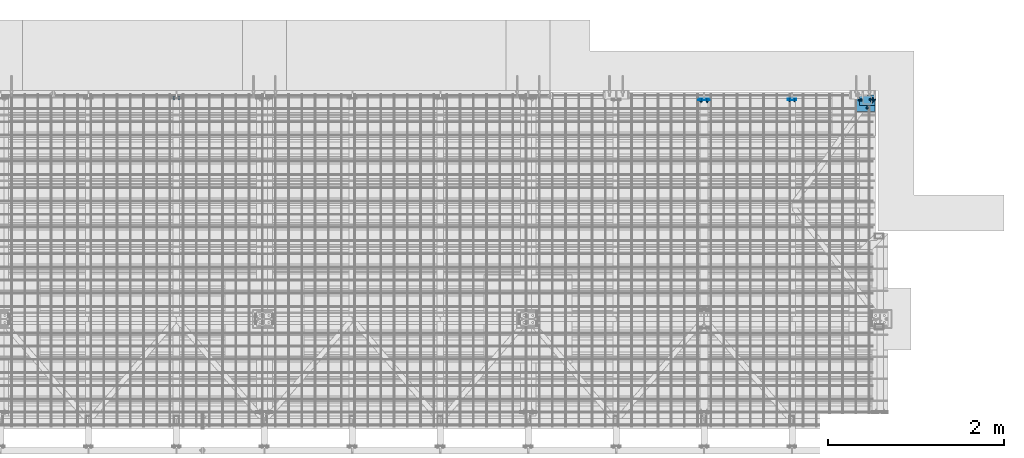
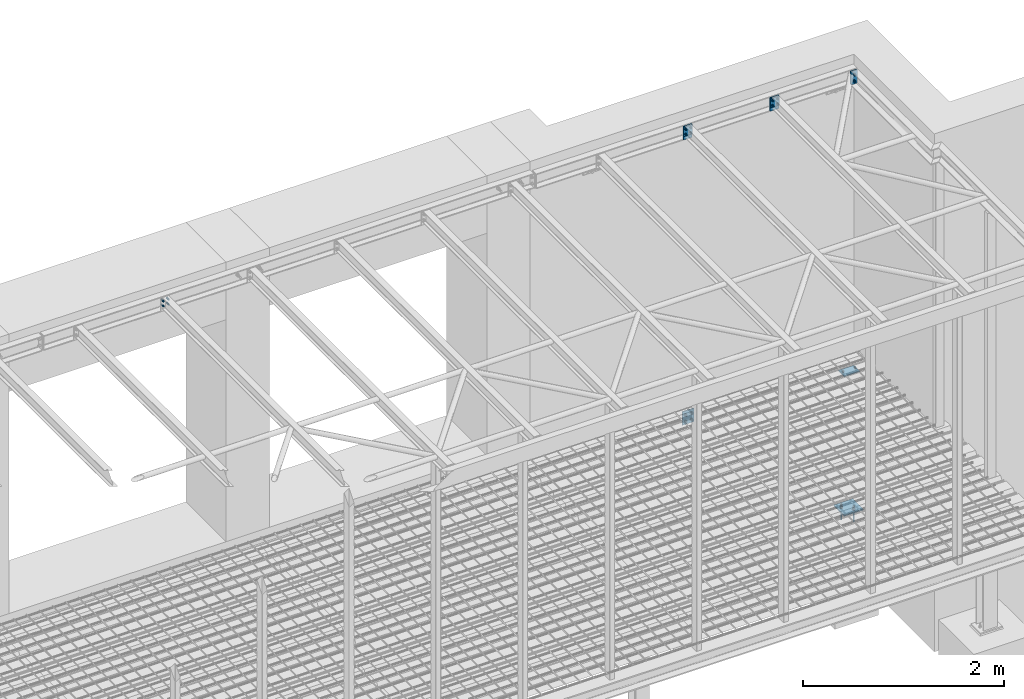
# One storey, part 23 of 26: 9 discrete accessories, 8 mechanical fasteners, 8 elements without a shape of their own.
"""IFC2X3 building model written with IfcOpenShell, lengths in millimetres."""

from ifc_helpers import new_model, si_unit, frame, origin_with_axes, origin_2d_with_axis, place, context, subcontext, project, spatial, polyline, circle, outline, extrude, source, transform, mapped, material, type_object, element, aggregate, save


model = new_model("IFC2X3")

# Units and contexts
model_context = context("Model", 3, precision=1e-05, world=origin_with_axes())
body_context = subcontext(model_context, "Body", "Model", "MODEL_VIEW")
ifc_project = project(units=[si_unit("LENGTHUNIT", "METRE", prefix="MILLI"), si_unit("AREAUNIT", "SQUARE_METRE"), si_unit("VOLUMEUNIT", "CUBIC_METRE"), si_unit("MASSUNIT", "GRAM", prefix="KILO"), si_unit("TIMEUNIT", "SECOND"), si_unit("PLANEANGLEUNIT", "RADIAN"), si_unit("SOLIDANGLEUNIT", "STERADIAN"), si_unit("THERMODYNAMICTEMPERATUREUNIT", "DEGREE_CELSIUS"), si_unit("LUMINOUSINTENSITYUNIT", "LUMEN")], contexts=[model_context])

# Site, building, storey
site_placement = place(None, origin_with_axes())
site = spatial("IfcSite", under=ifc_project, at=site_placement, Name="Undefined", CompositionType="ELEMENT")
building_placement = place(site_placement, origin_with_axes())
building = spatial("IfcBuilding", under=site, at=building_placement, Name="Undefined", CompositionType="ELEMENT")
storey_placement = place(building_placement, origin_with_axes())
storey = spatial("IfcBuildingStorey", under=building, at=storey_placement, Name="Undefined", CompositionType="ELEMENT", Elevation=0.0)

# Assembly, mechanical fasteners
assembly_1_placement = place(storey_placement, origin_with_axes())
assembly_1 = element("IfcElementAssembly", 1, at=assembly_1_placement, inside=storey, Name="Steel Assembly", AssemblyPlace="NOTDEFINED", PredefinedType="RIGID_FRAME")
ifc_material_1 = material(Name="Undefined")
discrete_accessory_type_1 = type_object("IfcDiscreteAccessoryType", Name="Bolt assembly")
shared_shape_1 = source(origin_with_axes(), body_context, "Body", "SweptSolid", [
    extrude(circle(Radius=9.0, at=origin_2d_with_axis()), frame((0.0, -15.0, 0.0), z_axis=(0.0, 1.0, 0.0), x_axis=(1.0, 0.0, 0.0)), (0.0, 0.0, 1.0), 15.1),
    extrude(outline(polyline([(7.73649338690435, 0.0), (3.86824669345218, 6.69999980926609), (-3.86824669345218, 6.69999980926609), (-7.73649338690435, 0.0), (-3.86824669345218, -6.69999980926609), (3.86824669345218, -6.69999980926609), (7.73649338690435, 0.0)])), frame((0.0, -147.0, 0.0), z_axis=(0.0, 1.0, 0.0), x_axis=(1.0, 0.0, 0.0)), (0.0, 0.0, 1.0), 132.0),
    extrude(circle(Radius=8.0, at=origin_2d_with_axis()), frame((0.0, -15.0, 0.0), z_axis=(0.0, 1.0, 0.0), x_axis=(1.0, 0.0, 0.0)), (0.0, 0.0, 1.0), 58.0),
    extrude(circle(Radius=15.0, at=origin_2d_with_axis()), frame((0.0, 0.0, 0.0), z_axis=(0.0, 1.0, 0.0), x_axis=(1.0, 0.0, 0.0)), (0.0, 0.0, 1.0), 3.0),
    extrude(outline(polyline([(15.4441197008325, 0.0), (7.72205985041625, 13.3750000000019), (-7.72205985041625, 13.3750000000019), (-15.4441197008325, 0.0), (-7.72205985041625, -13.3750000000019), (7.72205985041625, -13.3750000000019), (15.4441197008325, 0.0)])), frame((0.0, 3.0, 0.0), z_axis=(0.0, 1.0, 0.0), x_axis=(1.0, 0.0, 0.0)), (0.0, 0.0, 1.0), 13.0),
])
mechanical_fastener_1_placement = place(assembly_1_placement, frame((15905.0, 3660.0, -1975.0), z_axis=(0.0, -1.0, 0.0), x_axis=(1.0, 0.0, 0.0)))
mechanical_fastener_1 = element("IfcMechanicalFastener", 2, at=mechanical_fastener_1_placement, type_object=discrete_accessory_type_1, material=ifc_material_1, Name="Bolt assembly", NominalDiameter=16.0, NominalLength=58.0, context=body_context, shape_type="MappedRepresentation", body=[
    mapped(shared_shape_1, transform((0.0, 0.0, 0.0))),
])
mechanical_fastener_2_placement = place(assembly_1_placement, frame((15815.0, 3750.0, -1975.0), z_axis=(0.0, -1.0, 0.0), x_axis=(1.0, 0.0, 0.0)))
mechanical_fastener_2 = element("IfcMechanicalFastener", 3, at=mechanical_fastener_2_placement, type_object=discrete_accessory_type_1, material=ifc_material_1, Name="Bolt assembly", NominalDiameter=16.0, NominalLength=58.0, context=body_context, shape_type="MappedRepresentation", body=[
    mapped(shared_shape_1, transform((0.0, 0.0, 0.0))),
])

# Assembly, mechanical fastener
assembly_2_placement = place(storey_placement, origin_with_axes())
assembly_2 = element("IfcElementAssembly", 4, at=assembly_2_placement, inside=storey, AssemblyPlace="NOTDEFINED", PredefinedType="REINFORCEMENT_UNIT")
mechanical_fastener_type = type_object("IfcMechanicalFastenerType", Name="Bolt assembly")
shared_shape_2 = source(origin_with_axes(), body_context, "Body", "SweptSolid", [
    extrude(circle(Radius=9.0, at=origin_2d_with_axis()), frame((0.0, -0.1, 0.0), z_axis=(0.0, 1.0, 0.0), x_axis=(1.0, 0.0, 0.0)), (0.0, 0.0, 1.0), 10.1),
    extrude(circle(Radius=9.0, at=origin_2d_with_axis()), frame((0.0, -9.9, 0.0), z_axis=(0.0, 1.0, 0.0), x_axis=(1.0, 0.0, 0.0)), (0.0, 0.0, 1.0), 10.0),
    extrude(outline(polyline([(13.85640646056, 0.0), (6.92820323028, 12.0000000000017), (-6.92820323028, 12.0000000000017), (-13.85640646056, 0.0), (-6.92820323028, -12.0000000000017), (6.92820323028, -12.0000000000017), (13.85640646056, 0.0)])), frame((0.0, -23.0, 0.0), z_axis=(0.0, 1.0, 0.0), x_axis=(1.0, 0.0, 0.0)), (0.0, 0.0, 1.0), 10.0),
    extrude(circle(Radius=8.0, at=origin_2d_with_axis()), frame((0.0, -13.0, 0.0), z_axis=(0.0, 1.0, 0.0), x_axis=(1.0, 0.0, 0.0)), (0.0, 0.0, 1.0), 50.0),
    extrude(circle(Radius=15.0, at=origin_2d_with_axis()), frame((0.0, -13.0, 0.0), z_axis=(0.0, 1.0, 0.0), x_axis=(1.0, 0.0, 0.0)), (0.0, 0.0, 1.0), 3.0),
    extrude(circle(Radius=15.0, at=origin_2d_with_axis()), frame((0.0, 10.0, 0.0), z_axis=(0.0, 1.0, 0.0), x_axis=(1.0, 0.0, 0.0)), (0.0, 0.0, 1.0), 3.0),
    extrude(outline(polyline([(15.4441197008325, 0.0), (7.72205985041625, 13.3750000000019), (-7.72205985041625, 13.3750000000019), (-15.4441197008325, 0.0), (-7.72205985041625, -13.3750000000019), (7.72205985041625, -13.3750000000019), (15.4441197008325, 0.0)])), frame((0.0, 13.0, 0.0), z_axis=(0.0, 1.0, 0.0), x_axis=(1.0, 0.0, 0.0)), (0.0, 0.0, 1.0), 13.0),
])
mechanical_fastener_3_placement = place(assembly_2_placement, frame((14015.0, 3755.0, -250.0), z_axis=(0.0, 0.0, -1.0), x_axis=(1.0, 0.0, 0.0)))
mechanical_fastener_3 = element("IfcMechanicalFastener", 5, at=mechanical_fastener_3_placement, type_object=mechanical_fastener_type, material=ifc_material_1, Name="Bolt assembly", NominalDiameter=16.0, NominalLength=50.0, context=body_context, shape_type="MappedRepresentation", body=[
    mapped(shared_shape_2, transform((0.0, 0.0, 40.0))),
    mapped(shared_shape_2, transform((70.0, 0.0, 40.0))),
    mapped(shared_shape_2, transform((0.0, 0.0, -40.0))),
    mapped(shared_shape_2, transform((70.0, 0.0, -40.0))),
])
aggregate(assembly_2, [mechanical_fastener_3])

# Assembly, discrete accessory
assembly_3_placement = place(storey_placement, origin_with_axes())
assembly_3 = element("IfcElementAssembly", 6, at=assembly_3_placement, inside=storey, Name="Steel Assembly", AssemblyPlace="NOTDEFINED", PredefinedType="RIGID_FRAME")
ifc_material_2 = material(Name="STEEL/S235JR")
discrete_accessory_type_2 = type_object("IfcDiscreteAccessoryType", Name="PLECH")
discrete_accessory_1_placement = place(assembly_3_placement, frame((13985.0, 3750.0, -168.0), z_axis=(0.0, 1.0, 0.0), x_axis=(1.0, 0.0, 0.0)))
discrete_accessory_1 = element("IfcDiscreteAccessory", 7, at=discrete_accessory_1_placement, type_object=discrete_accessory_type_2, material=ifc_material_2, Name="PLECH", ObjectType="PL10*130", context=body_context, shape_type="SweptSolid", body=[
    extrude(outline(polyline([(0.0, 0.0), (130.0, 0.0), (130.0, 164.0), (0.0, 164.0), (0.0, 0.0)])), frame((0.0, 0.0, -5.0), z_axis=(0.0, 0.0, 1.0), x_axis=(1.0, 0.0, 0.0)), (0.0, 0.0, 1.0), 10.0),
])
aggregate(assembly_3, [discrete_accessory_1])

assembly_4_placement = place(storey_placement, origin_with_axes())
assembly_4 = element("IfcElementAssembly", 8, at=assembly_4_placement, inside=storey, Name="Steel Assembly", AssemblyPlace="NOTDEFINED", PredefinedType="RIGID_FRAME")
discrete_accessory_2_placement = place(assembly_4_placement, frame((15925.0, 3750.0, 3130.0), z_axis=(0.0, 1.0, 0.0), x_axis=(0.0, 0.0, 1.0)))
discrete_accessory_2 = element("IfcDiscreteAccessory", 9, at=discrete_accessory_2_placement, type_object=discrete_accessory_type_2, material=ifc_material_2, Name="PLECH", ObjectType="PL10*75", context=body_context, shape_type="SweptSolid", body=[
    extrude(outline(polyline([(0.0, 0.0), (160.0, 0.0), (160.0, 75.0), (0.0, 75.0), (0.0, 0.0)])), frame((0.0, 0.0, -5.0), z_axis=(0.0, 0.0, 1.0), x_axis=(1.0, 0.0, 0.0)), (0.0, 0.0, 1.0), 10.0),
])
aggregate(assembly_4, [discrete_accessory_2])

assembly_5_placement = place(storey_placement, origin_with_axes())
assembly_5 = element("IfcElementAssembly", 10, at=assembly_5_placement, inside=storey, Name="Steel Assembly", AssemblyPlace="NOTDEFINED", PredefinedType="RIGID_FRAME")
discrete_accessory_3_placement = place(assembly_5_placement, frame((15925.0, 3760.0, 3130.0), z_axis=(0.0, 1.0, 0.0), x_axis=(0.0, 0.0, 1.0)))
discrete_accessory_3 = element("IfcDiscreteAccessory", 11, at=discrete_accessory_3_placement, type_object=discrete_accessory_type_2, material=ifc_material_2, Name="PLECH", ObjectType="PL10*75", context=body_context, shape_type="SweptSolid", body=[
    extrude(outline(polyline([(0.0, 0.0), (160.0, 0.0), (160.0, 75.0), (0.0, 75.0), (0.0, 0.0)])), frame((0.0, 0.0, -5.0), z_axis=(0.0, 0.0, 1.0), x_axis=(1.0, 0.0, 0.0)), (0.0, 0.0, 1.0), 10.0),
])

# Discrete accessory
discrete_accessory_4_placement = place(assembly_1_placement, frame((15995.0, 3830.0, -1982.5), z_axis=(0.0, 0.0, 1.0), x_axis=(-1.0, 0.0, 0.0)))
discrete_accessory_4 = element("IfcDiscreteAccessory", 12, at=discrete_accessory_4_placement, type_object=discrete_accessory_type_2, material=ifc_material_2, Name="PLECH", ObjectType="PL15*210", context=body_context, shape_type="SweptSolid", body=[
    extrude(outline(polyline([(0.0, 0.0), (220.0, 0.0), (220.0, 210.0), (0.0, 210.0), (0.0, 0.0)])), frame((0.0, 0.0, -7.5), z_axis=(0.0, 0.0, 1.0), x_axis=(1.0, 0.0, 0.0)), (0.0, 0.0, 1.0), 15.0),
])

discrete_accessory_5_placement = place(assembly_1_placement, frame((15995.0, 3810.0, -345.0), z_axis=(0.0, 0.0, 1.0), x_axis=(-1.0, 0.0, 0.0)))
discrete_accessory_5 = element("IfcDiscreteAccessory", 13, at=discrete_accessory_5_placement, type_object=discrete_accessory_type_2, material=ifc_material_2, Name="PLECH", ObjectType="PL10*120", context=body_context, shape_type="SweptSolid", body=[
    extrude(outline(polyline([(0.0, 0.0), (180.0, 0.0), (180.0, 120.0), (0.0, 120.0), (0.0, 0.0)])), frame((0.0, 0.0, -5.0), z_axis=(0.0, 0.0, 1.0), x_axis=(1.0, 0.0, 0.0)), (0.0, 0.0, 1.0), 10.0),
])

# Assembly, discrete accessory
assembly_6_placement = place(storey_placement, origin_with_axes())
assembly_6 = element("IfcElementAssembly", 14, at=assembly_6_placement, inside=storey, Name="Steel Assembly", AssemblyPlace="NOTDEFINED", PredefinedType="RIGID_FRAME")
discrete_accessory_6_placement = place(assembly_6_placement, frame((15000.0, 3751.0, 3175.0), z_axis=(0.0, 1.0, 0.0), x_axis=(0.0, 0.0, 1.0)))
discrete_accessory_6 = element("IfcDiscreteAccessory", 15, at=discrete_accessory_6_placement, type_object=discrete_accessory_type_2, material=ifc_material_2, Name="PLECH", ObjectType="PL8*100", context=body_context, shape_type="SweptSolid", body=[
    extrude(outline(polyline([(0.0, 0.0), (110.0, 0.0), (110.0, 100.0), (-9.09494701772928e-13, 100.0), (0.0, 0.0)])), frame((0.0, 0.0, -4.0), z_axis=(0.0, 0.0, 1.0), x_axis=(1.0, 0.0, 0.0)), (0.0, 0.0, 1.0), 8.0),
])
aggregate(assembly_6, [discrete_accessory_6])

# Discrete accessory
discrete_accessory_7_placement = place(assembly_5_placement, frame((15000.0, 3760.0, 3128.0), z_axis=(0.0, 1.0, 0.0), x_axis=(0.0, 0.0, 1.0)))
discrete_accessory_7 = element("IfcDiscreteAccessory", 16, at=discrete_accessory_7_placement, type_object=discrete_accessory_type_2, material=ifc_material_2, Name="PLECH", ObjectType="PL10*100", context=body_context, shape_type="SweptSolid", body=[
    extrude(outline(polyline([(0.0, 0.0), (164.0, 4.54747350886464e-13), (164.0, 100.0), (-9.09494701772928e-13, 100.0), (0.0, 0.0)])), frame((0.0, 0.0, -5.0), z_axis=(0.0, 0.0, 1.0), x_axis=(1.0, 0.0, 0.0)), (0.0, 0.0, 1.0), 10.0),
])

# Assembly, discrete accessory
assembly_7_placement = place(storey_placement, origin_with_axes())
assembly_7 = element("IfcElementAssembly", 17, at=assembly_7_placement, inside=storey, Name="Steel Assembly", AssemblyPlace="NOTDEFINED", PredefinedType="RIGID_FRAME")
discrete_accessory_8_placement = place(assembly_7_placement, frame((14000.0, 3751.0, 3175.0), z_axis=(0.0, 1.0, 0.0), x_axis=(0.0, 0.0, 1.0)))
discrete_accessory_8 = element("IfcDiscreteAccessory", 18, at=discrete_accessory_8_placement, type_object=discrete_accessory_type_2, material=ifc_material_2, Name="PLECH", ObjectType="PL8*100", context=body_context, shape_type="SweptSolid", body=[
    extrude(outline(polyline([(0.0, 0.0), (110.0, 0.0), (110.0, 100.0), (-9.09494701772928e-13, 100.0), (0.0, 0.0)])), frame((0.0, 0.0, -4.0), z_axis=(0.0, 0.0, 1.0), x_axis=(1.0, 0.0, 0.0)), (0.0, 0.0, 1.0), 8.0),
])
aggregate(assembly_7, [discrete_accessory_8])

# Discrete accessory
discrete_accessory_9_placement = place(assembly_5_placement, frame((14000.0, 3760.0, 3128.0), z_axis=(0.0, 1.0, 0.0), x_axis=(0.0, 0.0, 1.0)))
discrete_accessory_9 = element("IfcDiscreteAccessory", 19, at=discrete_accessory_9_placement, type_object=discrete_accessory_type_2, material=ifc_material_2, Name="PLECH", ObjectType="PL10*100", context=body_context, shape_type="SweptSolid", body=[
    extrude(outline(polyline([(0.0, 0.0), (164.0, 4.54747350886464e-13), (164.0, 100.0), (-9.09494701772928e-13, 100.0), (0.0, 0.0)])), frame((0.0, 0.0, -5.0), z_axis=(0.0, 0.0, 1.0), x_axis=(1.0, 0.0, 0.0)), (0.0, 0.0, 1.0), 10.0),
])

# Mechanical fastener
shared_shape_3 = source(origin_with_axes(), body_context, "Body", "SweptSolid", [
    extrude(circle(Radius=9.0, at=origin_2d_with_axis()), frame((0.0, -10.1, 0.0), z_axis=(0.0, 1.0, 0.0), x_axis=(1.0, 0.0, 0.0)), (0.0, 0.0, 1.0), 10.1),
    extrude(circle(Radius=9.0, at=origin_2d_with_axis()), frame((0.0, -19.9, 0.0), z_axis=(0.0, 1.0, 0.0), x_axis=(1.0, 0.0, 0.0)), (0.0, 0.0, 1.0), 10.0),
    extrude(outline(polyline([(13.85640646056, 0.0), (6.92820323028, 12.0000000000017), (-6.92820323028, 12.0000000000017), (-13.85640646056, 0.0), (-6.92820323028, -12.0000000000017), (6.92820323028, -12.0000000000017), (13.85640646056, 0.0)])), frame((0.0, -33.0, 0.0), z_axis=(0.0, 1.0, 0.0), x_axis=(1.0, 0.0, 0.0)), (0.0, 0.0, 1.0), 10.0),
    extrude(circle(Radius=8.0, at=origin_2d_with_axis()), frame((0.0, -23.0, 0.0), z_axis=(0.0, 1.0, 0.0), x_axis=(1.0, 0.0, 0.0)), (0.0, 0.0, 1.0), 50.0),
    extrude(circle(Radius=15.0, at=origin_2d_with_axis()), frame((0.0, -23.0, 0.0), z_axis=(0.0, 1.0, 0.0), x_axis=(1.0, 0.0, 0.0)), (0.0, 0.0, 1.0), 3.0),
    extrude(circle(Radius=15.0, at=origin_2d_with_axis()), frame((0.0, 0.0, 0.0), z_axis=(0.0, 1.0, 0.0), x_axis=(1.0, 0.0, 0.0)), (0.0, 0.0, 1.0), 3.0),
    extrude(outline(polyline([(15.4441197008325, 0.0), (7.72205985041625, 13.3750000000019), (-7.72205985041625, 13.3750000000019), (-15.4441197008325, 0.0), (-7.72205985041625, -13.3750000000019), (7.72205985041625, -13.3750000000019), (15.4441197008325, 0.0)])), frame((0.0, 3.0, 0.0), z_axis=(0.0, 1.0, 0.0), x_axis=(1.0, 0.0, 0.0)), (0.0, 0.0, 1.0), 13.0),
])
mechanical_fastener_4_placement = place(assembly_5_placement, frame((15960.0, 3745.0, 3210.0), z_axis=(0.0, 0.0, -1.0), x_axis=(1.0, 0.0, 0.0)))
mechanical_fastener_4 = element("IfcMechanicalFastener", 20, at=mechanical_fastener_4_placement, type_object=discrete_accessory_type_1, material=ifc_material_1, Name="Bolt assembly", NominalDiameter=16.0, NominalLength=50.0, context=body_context, shape_type="MappedRepresentation", body=[
    mapped(shared_shape_3, transform((0.0, 0.0, 40.0))),
    mapped(shared_shape_3, transform((0.0, 0.0, -40.0))),
])

shared_shape_4 = source(origin_with_axes(), body_context, "Body", "SweptSolid", [
    extrude(circle(Radius=6.5, at=origin_2d_with_axis()), frame((0.0, -13.9, 0.0), z_axis=(0.0, 1.0, 0.0), x_axis=(1.0, 0.0, 0.0)), (0.0, 0.0, 1.0), 14.0),
    extrude(circle(Radius=6.5, at=origin_2d_with_axis()), frame((0.0, -0.1, 0.0), z_axis=(0.0, 1.0, 0.0), x_axis=(1.0, 0.0, 0.0)), (0.0, 0.0, 1.0), 10.1),
    extrude(outline(polyline([(10.39230484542, 0.0), (5.19615242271, 9.00000000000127), (-5.19615242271, 9.00000000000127), (-10.39230484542, 0.0), (-5.19615242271, -9.00000000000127), (5.19615242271, -9.00000000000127), (10.39230484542, 0.0)])), frame((0.0, -24.0, 0.0), z_axis=(0.0, 1.0, 0.0), x_axis=(1.0, 0.0, 0.0)), (0.0, 0.0, 1.0), 7.5),
    extrude(circle(Radius=6.0, at=origin_2d_with_axis()), frame((0.0, -16.5, 0.0), z_axis=(0.0, 1.0, 0.0), x_axis=(1.0, 0.0, 0.0)), (0.0, 0.0, 1.0), 45.0),
    extrude(circle(Radius=12.0, at=origin_2d_with_axis()), frame((0.0, -16.5, 0.0), z_axis=(0.0, 1.0, 0.0), x_axis=(1.0, 0.0, 0.0)), (0.0, 0.0, 1.0), 2.5),
    extrude(circle(Radius=12.0, at=origin_2d_with_axis()), frame((0.0, 10.0, 0.0), z_axis=(0.0, 1.0, 0.0), x_axis=(1.0, 0.0, 0.0)), (0.0, 0.0, 1.0), 2.5),
    extrude(outline(polyline([(10.96965511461, 0.0), (5.484827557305, 9.50000000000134), (-5.484827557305, 9.50000000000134), (-10.96965511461, 0.0), (-5.484827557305, -9.50000000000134), (5.484827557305, -9.50000000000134), (10.96965511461, 0.0)])), frame((0.0, 12.5, 0.0), z_axis=(0.0, 1.0, 0.0), x_axis=(1.0, 0.0, 0.0)), (0.0, 0.0, 1.0), 10.0),
])
mechanical_fastener_5_placement = place(assembly_1_placement, frame((15835.0, 3750.0, -340.0), z_axis=(0.0, 1.0, 0.0), x_axis=(1.0, 0.0, 0.0)))
mechanical_fastener_5 = element("IfcMechanicalFastener", 21, at=mechanical_fastener_5_placement, type_object=discrete_accessory_type_1, material=ifc_material_1, Name="Bolt assembly", NominalDiameter=12.0, NominalLength=45.0, context=body_context, shape_type="MappedRepresentation", body=[
    mapped(shared_shape_4, transform((0.0, 0.0, 0.0))),
    mapped(shared_shape_4, transform((140.0, 0.0, 0.0))),
])

aggregate(assembly_1, [mechanical_fastener_1, mechanical_fastener_2, discrete_accessory_4, mechanical_fastener_5, discrete_accessory_5])

shared_shape_5 = source(origin_with_axes(), body_context, "Body", "SweptSolid", [
    extrude(circle(Radius=6.5, at=origin_2d_with_axis()), frame((0.0, -0.1, 0.0), z_axis=(0.0, 1.0, 0.0), x_axis=(1.0, 0.0, 0.0)), (0.0, 0.0, 1.0), 8.1),
    extrude(circle(Radius=6.5, at=origin_2d_with_axis()), frame((0.0, -9.9, 0.0), z_axis=(0.0, 1.0, 0.0), x_axis=(1.0, 0.0, 0.0)), (0.0, 0.0, 1.0), 10.0),
    extrude(outline(polyline([(10.96965511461, 0.0), (5.484827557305, 9.50000000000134), (-5.484827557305, 9.50000000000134), (-10.96965511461, 0.0), (-5.484827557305, -9.50000000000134), (5.484827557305, -9.50000000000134), (10.96965511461, 0.0)])), frame((0.0, -20.0, 0.0), z_axis=(0.0, 1.0, 0.0), x_axis=(1.0, 0.0, 0.0)), (0.0, 0.0, 1.0), 7.5),
    extrude(circle(Radius=6.0, at=origin_2d_with_axis()), frame((0.0, -12.5, 0.0), z_axis=(0.0, 1.0, 0.0), x_axis=(1.0, 0.0, 0.0)), (0.0, 0.0, 1.0), 40.0),
    extrude(circle(Radius=12.0, at=origin_2d_with_axis()), frame((0.0, -12.5, 0.0), z_axis=(0.0, 1.0, 0.0), x_axis=(1.0, 0.0, 0.0)), (0.0, 0.0, 1.0), 2.5),
    extrude(circle(Radius=12.0, at=origin_2d_with_axis()), frame((0.0, 8.0, 0.0), z_axis=(0.0, 1.0, 0.0), x_axis=(1.0, 0.0, 0.0)), (0.0, 0.0, 1.0), 2.5),
    extrude(outline(polyline([(10.96965511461, 0.0), (5.484827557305, 9.50000000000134), (-5.484827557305, 9.50000000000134), (-10.96965511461, 0.0), (-5.484827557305, -9.50000000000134), (5.484827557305, -9.50000000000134), (10.96965511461, 0.0)])), frame((0.0, 10.5, 0.0), z_axis=(0.0, 1.0, 0.0), x_axis=(1.0, 0.0, 0.0)), (0.0, 0.0, 1.0), 10.0),
])
mechanical_fastener_6_placement = place(assembly_5_placement, frame((15020.0, 3755.0, 3230.0), z_axis=(0.0, 0.0, -1.0), x_axis=(1.0, 0.0, 0.0)))
mechanical_fastener_6 = element("IfcMechanicalFastener", 22, at=mechanical_fastener_6_placement, type_object=discrete_accessory_type_1, material=ifc_material_1, Name="Bolt assembly", NominalDiameter=12.0, NominalLength=40.0, context=body_context, shape_type="MappedRepresentation", body=[
    mapped(shared_shape_5, transform((0.0, 0.0, -30.0))),
    mapped(shared_shape_5, transform((60.0, 0.0, -30.0))),
    mapped(shared_shape_5, transform((0.0, 0.0, 30.0))),
    mapped(shared_shape_5, transform((60.0, 0.0, 30.0))),
])

mechanical_fastener_7_placement = place(assembly_5_placement, frame((14020.0, 3755.0, 3230.0), z_axis=(0.0, 0.0, -1.0), x_axis=(1.0, 0.0, 0.0)))
mechanical_fastener_7 = element("IfcMechanicalFastener", 23, at=mechanical_fastener_7_placement, type_object=discrete_accessory_type_1, material=ifc_material_1, Name="Bolt assembly", NominalDiameter=12.0, NominalLength=40.0, context=body_context, shape_type="MappedRepresentation", body=[
    mapped(shared_shape_5, transform((0.0, 0.0, -30.0))),
    mapped(shared_shape_5, transform((60.0, 0.0, -30.0))),
    mapped(shared_shape_5, transform((0.0, 0.0, 30.0))),
    mapped(shared_shape_5, transform((60.0, 0.0, 30.0))),
])

aggregate(assembly_5, [mechanical_fastener_4, discrete_accessory_3, mechanical_fastener_6, discrete_accessory_7, mechanical_fastener_7, discrete_accessory_9])

# Assembly, mechanical fastener
assembly_8_placement = place(storey_placement, origin_with_axes())
assembly_8 = element("IfcElementAssembly", 24, at=assembly_8_placement, inside=storey, Name="Steel Assembly", AssemblyPlace="NOTDEFINED", PredefinedType="RIGID_FRAME")
mechanical_fastener_8_placement = place(assembly_8_placement, frame((8020.0, 3775.0, 3230.0), z_axis=(0.0, 0.0, -1.0), x_axis=(1.0, 0.0, 0.0)))
mechanical_fastener_8 = element("IfcMechanicalFastener", 25, at=mechanical_fastener_8_placement, type_object=discrete_accessory_type_1, material=ifc_material_1, Name="Bolt assembly", NominalDiameter=12.0, NominalLength=40.0, context=body_context, shape_type="MappedRepresentation", body=[
    mapped(shared_shape_5, transform((0.0, 0.0, -30.0))),
    mapped(shared_shape_5, transform((60.0, 0.0, -30.0))),
    mapped(shared_shape_5, transform((0.0, 0.0, 30.0))),
    mapped(shared_shape_5, transform((60.0, 0.0, 30.0))),
])
aggregate(assembly_8, [mechanical_fastener_8])

save(model, "model.ifc")
